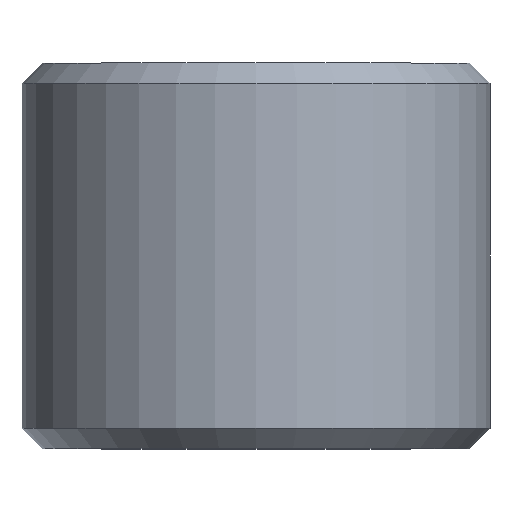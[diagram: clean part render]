
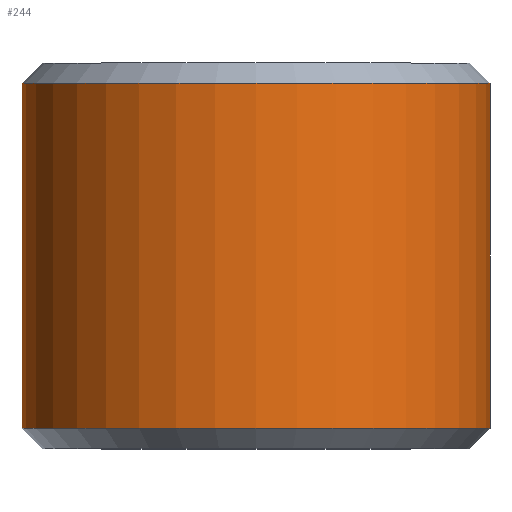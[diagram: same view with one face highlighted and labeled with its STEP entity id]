
A CAD part, top view. The second image highlights one B-rep face of the part: STEP entity #244.
In plain terms, the highlighted cylindrical face has radius 4.811 mm (diameter 9.621 mm), a full revolution.
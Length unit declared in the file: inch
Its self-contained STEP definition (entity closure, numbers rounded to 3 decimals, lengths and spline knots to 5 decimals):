
#16=CYLINDRICAL_SURFACE('',#274,0.18939);
#18=CIRCLE('',#272,0.18939);
#19=CIRCLE('',#273,0.18939);
#20=CIRCLE('',#275,0.18939);
#21=CIRCLE('',#276,0.18939);
#34=FACE_OUTER_BOUND('',#47,.T.);
#47=EDGE_LOOP('',(#193,#194,#195,#196,#197,#198));
#67=LINE('',#425,#83);
#83=VECTOR('',#321,0.203);
#117=VERTEX_POINT('',#418);
#118=VERTEX_POINT('',#420);
#119=VERTEX_POINT('',#424);
#120=VERTEX_POINT('',#426);
#149=EDGE_CURVE('',#117,#118,#18,.F.);
#150=EDGE_CURVE('',#118,#117,#19,.F.);
#151=EDGE_CURVE('',#118,#119,#67,.T.);
#152=EDGE_CURVE('',#120,#119,#20,.F.);
#153=EDGE_CURVE('',#119,#120,#21,.F.);
#193=ORIENTED_EDGE('',*,*,#150,.F.);
#194=ORIENTED_EDGE('',*,*,#151,.T.);
#195=ORIENTED_EDGE('',*,*,#152,.F.);
#196=ORIENTED_EDGE('',*,*,#153,.F.);
#197=ORIENTED_EDGE('',*,*,#151,.F.);
#198=ORIENTED_EDGE('',*,*,#149,.F.);
#244=ADVANCED_FACE('',(#34),#16,.T.);
#272=AXIS2_PLACEMENT_3D('',#421,#315,#316);
#273=AXIS2_PLACEMENT_3D('',#422,#317,#318);
#274=AXIS2_PLACEMENT_3D('',#423,#319,#320);
#275=AXIS2_PLACEMENT_3D('',#427,#322,#323);
#276=AXIS2_PLACEMENT_3D('',#428,#324,#325);
#315=DIRECTION('center_axis',(0.,1.,0.));
#316=DIRECTION('ref_axis',(0.,0.,-1.));
#317=DIRECTION('center_axis',(0.,1.,0.));
#318=DIRECTION('ref_axis',(0.,0.,-1.));
#319=DIRECTION('center_axis',(0.,-1.,0.));
#320=DIRECTION('ref_axis',(0.,0.,-1.));
#321=DIRECTION('',(0.,1.,0.));
#322=DIRECTION('center_axis',(0.,-1.,0.));
#323=DIRECTION('ref_axis',(0.,0.,-1.));
#324=DIRECTION('center_axis',(0.,-1.,0.));
#325=DIRECTION('ref_axis',(0.,0.,-1.));
#418=CARTESIAN_POINT('',(0.,0.01639,-0.18939));
#420=CARTESIAN_POINT('',(0.,0.01639,0.18939));
#421=CARTESIAN_POINT('Origin',(0.,0.01639,0.));
#422=CARTESIAN_POINT('Origin',(0.,0.01639,0.));
#423=CARTESIAN_POINT('Origin',(0.,0.156,0.));
#424=CARTESIAN_POINT('',(0.,0.29561,0.18939));
#425=CARTESIAN_POINT('',(0.,0.156,0.18939));
#426=CARTESIAN_POINT('',(0.,0.29561,-0.18939));
#427=CARTESIAN_POINT('Origin',(0.,0.29561,0.));
#428=CARTESIAN_POINT('Origin',(0.,0.29561,0.));
